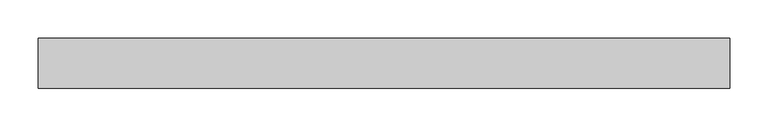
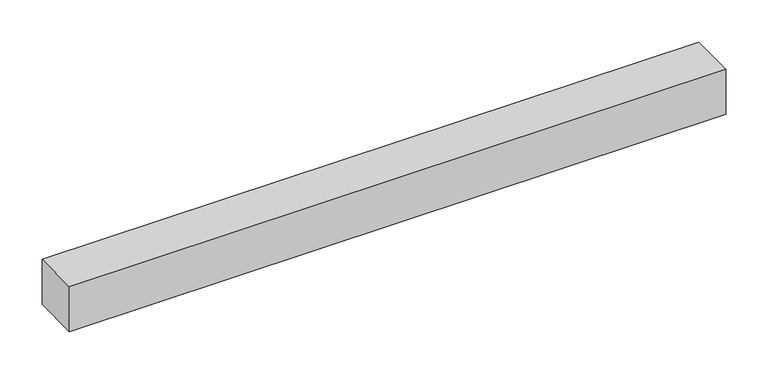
"""IFC4 building model written with IfcOpenShell, lengths in millimetres: proxy geometry, Building-Materials_Other_Daliform_Simple-Family_Accessory_PANEL_for ATLANTIS : PANEL_ATLANTIS-100_diam110_6.5x90x6.5."""

from ifc_helpers import new_model, si_unit, origin, origin_with_axes, place, context, project, spatial, polyline, outline, extrude, source, transform, mapped, element, save


def generic_models_06a1e233(model_context):
    return source(origin(), model_context, "Body", "SweptSolid", [
        extrude(outline(polyline([(0.0, -65.0), (0.0, 0.0), (900.0, 0.0), (900.0, -65.0), (0.0, -65.0)])), origin_with_axes(), (0.0, 0.0, 1.0), 65.0),
    ])


if __name__ == "__main__":
    model = new_model("IFC4")
    model_context = context("Model", 3, world=origin())
    ifc_project = project(units=[si_unit("LENGTHUNIT", "METRE", prefix="MILLI")], contexts=[model_context])
    site = spatial("IfcSite", under=ifc_project)
    building = spatial("IfcBuilding", under=site)
    placement = place(None, origin())
    generic_models_shape = generic_models_06a1e233(model_context)
    element("IfcBuildingElementProxy", 1, Name="Building-Materials_Other_Daliform_Simple-Family_Accessory_PANEL_for ATLANTIS : PANEL_ATLANTIS-100_diam110_6.5x90x6.5", ObjectType="Building-Materials_Other_Daliform_Simple-Family_Accessory_PANEL_for ATLANTIS : PANEL_ATLANTIS-100_diam110_6.5x90x6.5", at=placement, inside=building, context=model_context, shape_type="MappedRepresentation", body=[
        mapped(generic_models_shape, transform((0.0, 0.0, 0.0), x_axis=(1.0, 0.0, 0.0), y_axis=(0.0, 1.0, 0.0), z_axis=(0.0, 0.0, 1.0))),
    ])
    save(model, "model.ifc")
